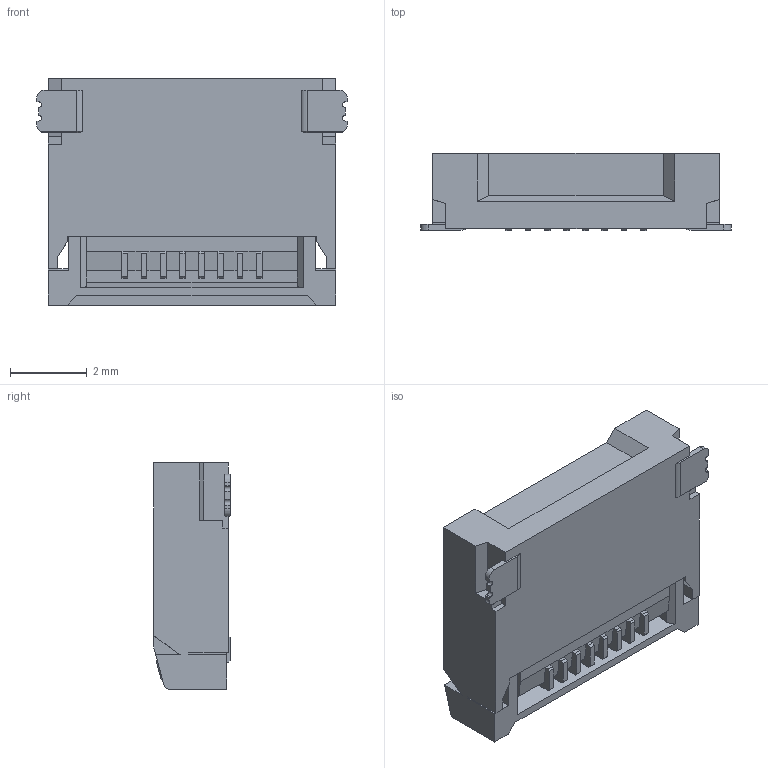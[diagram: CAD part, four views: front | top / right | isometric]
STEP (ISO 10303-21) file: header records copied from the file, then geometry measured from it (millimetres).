
FILE_DESCRIPTION (( 'STEP AP203' ), '1' );
FILE_NAME ('20593-008E-01C ASS''Y ACT CLOSE STEP R1 ALL.STEP', '2017-05-16T08:25:49', ( '' ), ( '' ), 'SwSTEP 2.0', 'SolidWorks 2014', '' );
FILE_SCHEMA (( 'CONFIG_CONTROL_DESIGN' ));
Length unit declared in the file: millimetre
Products named in the file (1): 20593-008E-01C ASS''Y ACT CLOSE STEP R1 ALL
Bounding box: 8.1 x 2 x 5.9 mm (x, y, z)
Volume: 76.9 mm3; surface area: 163.2 mm2
Topology: 1 solids, 1 shells, 185 faces, 538 edges, 352 vertices
Faces by surface type: plane 164, cylinder 19, cone 2
Entity records: 6077 total; most frequent: CARTESIAN_POINT 1100, ORIENTED_EDGE 1076, DIRECTION 940, EDGE_CURVE 538, LINE 492, VECTOR 492, VERTEX_POINT 352, AXIS2_PLACEMENT_3D 224
